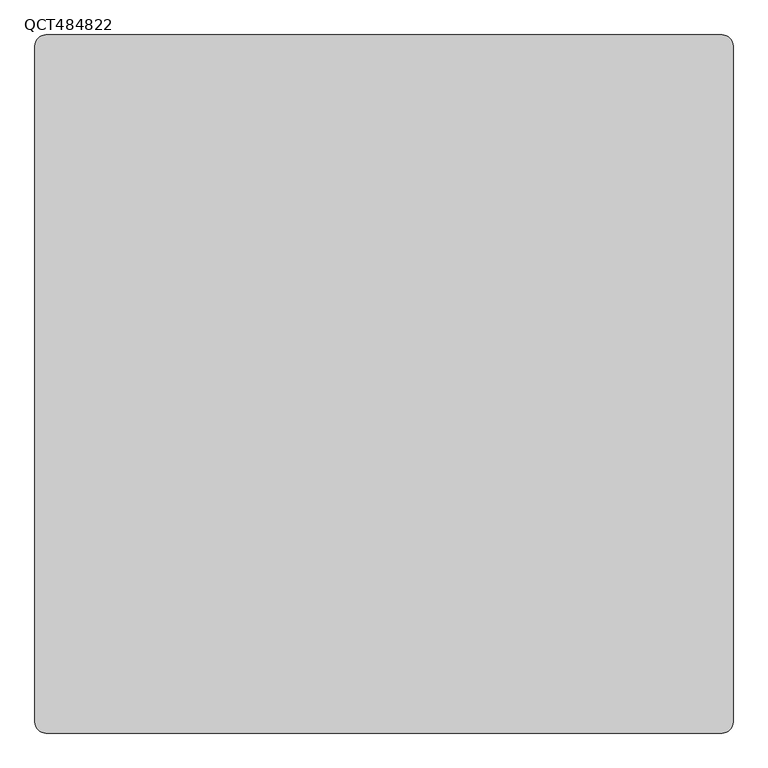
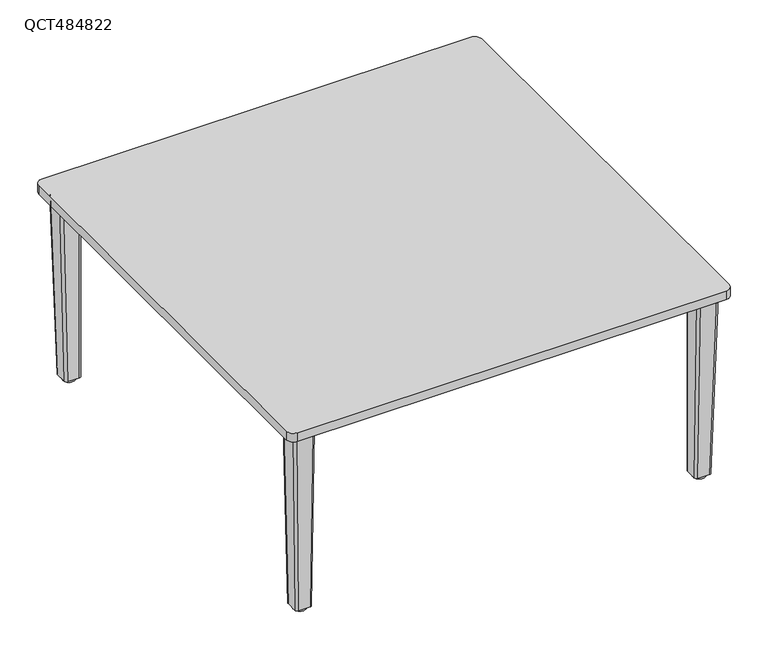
"""IFC4 building model written with IfcOpenShell, lengths in millimetres: furniture geometry, Leland-Quince-Table_Square : QCT484822."""

from ifc_helpers import new_model, si_unit, point, frame, frame_2d, origin, origin_with_axes, place, context, project, spatial, polyline, circle_curve, trimmed, segment, composite_curve, outline, extrude, source, transform, mapped, element, save
from ifc_brep_helpers import plane_surface, cylinder_surface, extruded_surface, advanced_brep


def qct484822_5f569f33(model_context):
    return source(origin(), model_context, "Body", "SolidModel", [
        advanced_brep(
        [(578.6299122, -527.8482078, 528.6487443), (534.1799122, -527.8482078, 528.6487443), (527.8299122, -534.1982078, 528.6487443), (527.8299122, -578.6482078, 528.6487443), (534.1799122, -584.9982078, 528.6487443), (578.6299122, -584.9982078, 528.6487443), (584.9799122, -578.6482078, 528.6487443), (584.9799122, -534.1982078, 528.6487443), (566.3392552, -527.8482078, 9.5377), (572.6892552, -534.1982078, 9.5377), (572.6892552, -566.3651364, 9.5377), (566.3392552, -572.7151364, 9.5377), (534.1799122, -572.7151364, 9.5377), (527.8299122, -566.3651364, 9.5377), (527.8299122, -534.1982078, 9.5377), (534.1799122, -527.8482078, 9.5377)],
        [
            (0, 1),
            (1, 2, circle_curve(frame((534.1799122, -534.1982078, 528.6487443), z_axis=(0.0, 0.0, 1.0), x_axis=(-1.0, 0.0, 0.0)), 6.35)),
            (2, 3),
            (3, 4, circle_curve(frame((534.1799122, -578.6482078, 528.6487443), z_axis=(0.0, 0.0, 1.0), x_axis=(-1.0, 0.0, 0.0)), 6.35)),
            (4, 5),
            (5, 6, circle_curve(frame((578.6299122, -578.6482078, 528.6487443), z_axis=(0.0, 0.0, 1.0), x_axis=(-1.0, 0.0, 0.0)), 6.35)),
            (6, 7),
            (7, 0, circle_curve(frame((578.6299122, -534.1982078, 528.6487443), z_axis=(0.0, 0.0, 1.0), x_axis=(-1.0, 0.0, 0.0)), 6.35)),
            (8, 9, circle_curve(frame((566.3392552, -534.1982078, 9.5377), z_axis=(0.0, 0.0, -1.0), x_axis=(-1.0, 0.0, 0.0)), 6.35)),
            (9, 10),
            (10, 11, circle_curve(frame((566.3392552, -566.3651364, 9.5377), z_axis=(0.0, 0.0, -1.0), x_axis=(-1.0, 0.0, 0.0)), 6.35)),
            (11, 12),
            (12, 13, circle_curve(frame((534.1799122, -566.3651364, 9.5377), z_axis=(0.0, 0.0, -1.0), x_axis=(-1.0, 0.0, 0.0)), 6.35)),
            (13, 14),
            (14, 15, circle_curve(frame((534.1799122, -534.1982078, 9.5377), z_axis=(0.0, 0.0, -1.0), x_axis=(-1.0, 0.0, 0.0)), 6.35)),
            (15, 8),
            (8, 0),
            (7, 9),
            (6, 10),
            (5, 11),
            (4, 12),
            (3, 13),
            (2, 14),
            (1, 15),
        ],
        [
            plane_surface(frame((556.4049122, -556.4232078, 528.6487443), z_axis=(0.0, 0.0, 1.0), x_axis=(1.0, 0.0, 0.0))),
            plane_surface(frame((550.2595837, -550.2816721, 9.5377), z_axis=(0.0, 0.0, -1.0), x_axis=(1.0, 0.0, 0.0))),
            extruded_surface(trimmed(circle_curve(frame((566.3392552, -534.1982078, 9.5377), z_axis=(0.0, 0.0, 1.0), x_axis=(-1.0, 0.0, 0.0)), 6.35), [point((572.6892552, -534.1982078, 9.5377))], [point((566.3392552, -527.8482078, 9.5377))], True, "CARTESIAN"), (12.29065700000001, 0.0, 519.1110443), 519.2565228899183),
            plane_surface(frame((572.6892552, -550.2816721, 9.5377), z_axis=(0.999719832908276, 0.0, -0.023669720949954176), x_axis=(0.0, 1.0, 0.0))),
            extruded_surface(trimmed(circle_curve(frame((566.3392552, -566.3651364, 9.5377), z_axis=(0.0, 0.0, 1.0), x_axis=(-1.0, 0.0, 0.0)), 6.35), [point((566.3392552, -572.7151364, 9.5377))], [point((572.6892552, -566.3651364, 9.5377))], True, "CARTESIAN"), (12.29065700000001, -12.28307140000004, 519.1110443), 519.4017812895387),
            plane_surface(frame((550.2595837, -572.7151364, 9.5377), z_axis=(0.0, -0.9997201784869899, -0.023655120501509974), x_axis=(1.0, 0.0, 0.0))),
            extruded_surface(trimmed(circle_curve(frame((534.1799122, -566.3651364, 9.5377), z_axis=(0.0, 0.0, 1.0), x_axis=(-1.0, 0.0, 0.0)), 6.35), [point((527.8299122, -566.3651364, 9.5377))], [point((534.1799122, -572.7151364, 9.5377))], True, "CARTESIAN"), (0.0, -12.28307140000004, 519.1110443), 519.2563433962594),
            plane_surface(frame((527.8299122, -550.2816721, 9.5377), z_axis=(-1.0, 0.0, 0.0), x_axis=(0.0, -1.0, 0.0))),
            cylinder_surface(frame((534.1799122, -534.1982078, 9.5377), z_axis=(0.0, 0.0, 1.0), x_axis=(-1.0, 0.0, 0.0)), 6.35),
            plane_surface(frame((550.2595837, -527.8482078, 9.5377), z_axis=(0.0, 1.0, 0.0), x_axis=(-1.0, 0.0, 0.0))),
        ],
        [
            (0, [[1, 2, 3, 4, 5, 6, 7, 8]]),
            (1, [[9, 10, 11, 12, 13, 14, 15, 16]]),
            (2, [[-9, 17, -8, 18]]),
            (3, [[-10, -18, -7, 19]]),
            (4, [[-11, -19, -6, 20]]),
            (5, [[-12, -20, -5, 21]]),
            (6, [[-13, -21, -4, 22]]),
            (7, [[-14, -22, -3, 23]]),
            (8, [[-15, -23, -2, 24]]),
            (9, [[-16, -24, -1, -17]]),
        ],
    ),
        advanced_brep(
        [(-578.6299122, -527.8482078, 528.6487443), (-584.9799122, -534.1982078, 528.6487443), (-584.9799122, -578.6482078, 528.6487443), (-578.6299122, -584.9982078, 528.6487443), (-534.1799122, -584.9982078, 528.6487443), (-527.8299122, -578.6482078, 528.6487443), (-527.8299122, -534.1982078, 528.6487443), (-534.1799122, -527.8482078, 528.6487443), (-566.3392552, -527.8482078, 9.5377), (-534.1799122, -527.8482078, 9.5377), (-527.8299122, -534.1982078, 9.5377), (-527.8299122, -566.3651364, 9.5377), (-534.1799122, -572.7151364, 9.5377), (-566.3392552, -572.7151364, 9.5377), (-572.6892552, -566.3651364, 9.5377), (-572.6892552, -534.1982078, 9.5377)],
        [
            (0, 1, circle_curve(frame((-578.6299122, -534.1982078, 528.6487443), z_axis=(0.0, 0.0, 1.0), x_axis=(1.0, 0.0, 0.0)), 6.35)),
            (1, 2),
            (2, 3, circle_curve(frame((-578.6299122, -578.6482078, 528.6487443), z_axis=(0.0, 0.0, 1.0), x_axis=(1.0, 0.0, 0.0)), 6.35)),
            (3, 4),
            (4, 5, circle_curve(frame((-534.1799122, -578.6482078, 528.6487443), z_axis=(0.0, 0.0, 1.0), x_axis=(1.0, 0.0, 0.0)), 6.35)),
            (5, 6),
            (6, 7, circle_curve(frame((-534.1799122, -534.1982078, 528.6487443), z_axis=(0.0, 0.0, 1.0), x_axis=(0.0, 1.0, 0.0)), 6.35)),
            (7, 0),
            (8, 9),
            (9, 10, circle_curve(frame((-534.1799122, -534.1982078, 9.5377), z_axis=(0.0, 0.0, -1.0), x_axis=(0.0, 1.0, 0.0)), 6.35)),
            (10, 11),
            (11, 12, circle_curve(frame((-534.1799122, -566.3651364, 9.5377), z_axis=(0.0, 0.0, -1.0), x_axis=(1.0, 0.0, 0.0)), 6.35)),
            (12, 13),
            (13, 14, circle_curve(frame((-566.3392552, -566.3651364, 9.5377), z_axis=(0.0, 0.0, -1.0), x_axis=(1.0, 0.0, 0.0)), 6.35)),
            (14, 15),
            (15, 8, circle_curve(frame((-566.3392552, -534.1982078, 9.5377), z_axis=(0.0, 0.0, -1.0), x_axis=(1.0, 0.0, 0.0)), 6.35)),
            (15, 1),
            (0, 8),
            (14, 2),
            (13, 3),
            (12, 4),
            (11, 5),
            (10, 6),
            (9, 7),
        ],
        [
            plane_surface(frame((-556.4049122, -556.4232078, 528.6487443), z_axis=(0.0, 0.0, 1.0), x_axis=(1.0, 0.0, 0.0))),
            plane_surface(frame((-550.2595837, -550.2816721, 9.5377), z_axis=(0.0, 0.0, -1.0), x_axis=(1.0, 0.0, 0.0))),
            extruded_surface(trimmed(circle_curve(frame((-566.3392552, -534.1982078, 9.5377), z_axis=(0.0, 0.0, 1.0), x_axis=(1.0, 0.0, 0.0)), 6.35), [point((-566.3392552, -527.8482078, 9.5377))], [point((-572.6892552, -534.1982078, 9.5377))], True, "CARTESIAN"), (-12.29065700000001, 0.0, 519.1110443), 519.2565228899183),
            plane_surface(frame((-572.6892552, -550.2816721, 9.5377), z_axis=(-0.999719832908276, 0.0, -0.023669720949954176), x_axis=(0.0, -1.0, 0.0))),
            extruded_surface(trimmed(circle_curve(frame((-566.3392552, -566.3651364, 9.5377), z_axis=(0.0, 0.0, 1.0), x_axis=(1.0, 0.0, 0.0)), 6.35), [point((-572.6892552, -566.3651364, 9.5377))], [point((-566.3392552, -572.7151364, 9.5377))], True, "CARTESIAN"), (-12.29065700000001, -12.28307140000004, 519.1110443), 519.4017812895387),
            plane_surface(frame((-550.2595837, -572.7151364, 9.5377), z_axis=(0.0, -0.9997201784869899, -0.023655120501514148), x_axis=(1.0, 0.0, 0.0))),
            extruded_surface(trimmed(circle_curve(frame((-534.1799122, -566.3651364, 9.5377), z_axis=(0.0, 0.0, 1.0), x_axis=(1.0, 0.0, 0.0)), 6.35), [point((-534.1799122, -572.7151364, 9.5377))], [point((-527.8299122, -566.3651364, 9.5377))], True, "CARTESIAN"), (0.0, -12.28307140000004, 519.1110443), 519.2563433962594),
            plane_surface(frame((-527.8299122, -550.2816721, 9.5377), z_axis=(1.0, 0.0, 0.0), x_axis=(0.0, 1.0, 0.0))),
            cylinder_surface(frame((-534.1799122, -534.1982078, 9.5377), z_axis=(0.0, 0.0, 1.0), x_axis=(0.0, 1.0, 0.0)), 6.35),
            plane_surface(frame((-550.2595837, -527.8482078, 9.5377), z_axis=(0.0, 1.0, 0.0), x_axis=(-1.0, 0.0, 0.0))),
        ],
        [
            (0, [[1, 2, 3, 4, 5, 6, 7, 8]]),
            (1, [[9, 10, 11, 12, 13, 14, 15, 16]]),
            (2, [[-16, 17, -1, 18]]),
            (3, [[-15, 19, -2, -17]]),
            (4, [[-14, 20, -3, -19]]),
            (5, [[-13, 21, -4, -20]]),
            (6, [[-12, 22, -5, -21]]),
            (7, [[-11, 23, -6, -22]]),
            (8, [[-10, 24, -7, -23]]),
            (9, [[-9, -18, -8, -24]]),
        ],
    ),
        advanced_brep(
        [(578.6299122, 527.8482078, 528.6487443), (584.9799122, 534.1982078, 528.6487443), (584.9799122, 578.6482078, 528.6487443), (578.6299122, 584.9982078, 528.6487443), (534.1799122, 584.9982078, 528.6487443), (527.8299122, 578.6482078, 528.6487443), (527.8299122, 534.1982078, 528.6487443), (534.1799122, 527.8482078, 528.6487443), (566.3392552, 527.8482078, 9.5377), (534.1799122, 527.8482078, 9.5377), (527.8299122, 534.1982078, 9.5377), (527.8299122, 566.3651364, 9.5377), (534.1799122, 572.7151364, 9.5377), (566.3392552, 572.7151364, 9.5377), (572.6892552, 566.3651364, 9.5377), (572.6892552, 534.1982078, 9.5377)],
        [
            (0, 1, circle_curve(frame((578.6299122, 534.1982078, 528.6487443), z_axis=(0.0, 0.0, 1.0), x_axis=(-1.0, 0.0, 0.0)), 6.35)),
            (1, 2),
            (2, 3, circle_curve(frame((578.6299122, 578.6482078, 528.6487443), z_axis=(0.0, 0.0, 1.0), x_axis=(-1.0, 0.0, 0.0)), 6.35)),
            (3, 4),
            (4, 5, circle_curve(frame((534.1799122, 578.6482078, 528.6487443), z_axis=(0.0, 0.0, 1.0), x_axis=(-1.0, 0.0, 0.0)), 6.35)),
            (5, 6),
            (6, 7, circle_curve(frame((534.1799122, 534.1982078, 528.6487443), z_axis=(0.0, 0.0, 1.0), x_axis=(0.0, -1.0, 0.0)), 6.35)),
            (7, 0),
            (8, 9),
            (9, 10, circle_curve(frame((534.1799122, 534.1982078, 9.5377), z_axis=(0.0, 0.0, -1.0), x_axis=(0.0, -1.0, 0.0)), 6.35)),
            (10, 11),
            (11, 12, circle_curve(frame((534.1799122, 566.3651364, 9.5377), z_axis=(0.0, 0.0, -1.0), x_axis=(-1.0, 0.0, 0.0)), 6.35)),
            (12, 13),
            (13, 14, circle_curve(frame((566.3392552, 566.3651364, 9.5377), z_axis=(0.0, 0.0, -1.0), x_axis=(-1.0, 0.0, 0.0)), 6.35)),
            (14, 15),
            (15, 8, circle_curve(frame((566.3392552, 534.1982078, 9.5377), z_axis=(0.0, 0.0, -1.0), x_axis=(-1.0, 0.0, 0.0)), 6.35)),
            (15, 1),
            (0, 8),
            (14, 2),
            (13, 3),
            (12, 4),
            (11, 5),
            (10, 6),
            (9, 7),
        ],
        [
            plane_surface(frame((556.4049122, 556.4232078, 528.6487443), z_axis=(0.0, 0.0, 1.0), x_axis=(-1.0, 0.0, 0.0))),
            plane_surface(frame((550.2595837, 550.2816721, 9.5377), z_axis=(0.0, 0.0, -1.0), x_axis=(-1.0, 0.0, 0.0))),
            extruded_surface(trimmed(circle_curve(frame((566.3392552, 534.1982078, 9.5377), z_axis=(0.0, 0.0, 1.0), x_axis=(-1.0, 0.0, 0.0)), 6.35), [point((566.3392552, 527.8482078, 9.5377))], [point((572.6892552, 534.1982078, 9.5377))], True, "CARTESIAN"), (12.29065700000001, 0.0, 519.1110443), 519.2565228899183),
            plane_surface(frame((572.6892552, 550.2816721, 9.5377), z_axis=(0.999719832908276, 0.0, -0.023669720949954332), x_axis=(0.0, 1.0, 0.0))),
            extruded_surface(trimmed(circle_curve(frame((566.3392552, 566.3651364, 9.5377), z_axis=(0.0, 0.0, 1.0), x_axis=(-1.0, 0.0, 0.0)), 6.35), [point((572.6892552, 566.3651364, 9.5377))], [point((566.3392552, 572.7151364, 9.5377))], True, "CARTESIAN"), (12.29065700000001, 12.28307140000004, 519.1110443), 519.4017812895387),
            plane_surface(frame((550.2595837, 572.7151364, 9.5377), z_axis=(0.0, 0.9997201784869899, -0.023655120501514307), x_axis=(-1.0, 0.0, 0.0))),
            extruded_surface(trimmed(circle_curve(frame((534.1799122, 566.3651364, 9.5377), z_axis=(0.0, 0.0, 1.0), x_axis=(-1.0, 0.0, 0.0)), 6.35), [point((534.1799122, 572.7151364, 9.5377))], [point((527.8299122, 566.3651364, 9.5377))], True, "CARTESIAN"), (0.0, 12.28307140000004, 519.1110443), 519.2563433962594),
            plane_surface(frame((527.8299122, 550.2816721, 9.5377), z_axis=(-1.0, 0.0, 0.0), x_axis=(0.0, -1.0, 0.0))),
            cylinder_surface(frame((534.1799122, 534.1982078, 9.5377), z_axis=(0.0, 0.0, 1.0), x_axis=(0.0, -1.0, 0.0)), 6.35),
            plane_surface(frame((550.2595837, 527.8482078, 9.5377), z_axis=(0.0, -1.0, 0.0), x_axis=(1.0, 0.0, 0.0))),
        ],
        [
            (0, [[1, 2, 3, 4, 5, 6, 7, 8]]),
            (1, [[9, 10, 11, 12, 13, 14, 15, 16]]),
            (2, [[-16, 17, -1, 18]]),
            (3, [[-15, 19, -2, -17]]),
            (4, [[-14, 20, -3, -19]]),
            (5, [[-13, 21, -4, -20]]),
            (6, [[-12, 22, -5, -21]]),
            (7, [[-11, 23, -6, -22]]),
            (8, [[-10, 24, -7, -23]]),
            (9, [[-9, -18, -8, -24]]),
        ],
    ),
        extrude(outline(composite_curve([segment(trimmed(circle_curve(frame_2d((-550.2595837, 550.2816721)), 16.66875), [point((-566.9283337, 550.2816721))], [point((-533.5908337, 550.2816721))], False, "CARTESIAN"), True, "CONTINUOUS"), segment(trimmed(circle_curve(frame_2d((-550.2595837, 550.2816721)), 16.66875), [point((-533.5908337, 550.2816721))], [point((-566.9283337, 550.2816721))], False, "CARTESIAN"), True, "CONTINUOUS")], self_intersect=False)), origin_with_axes(), (0.0, 0.0, 1.0), 9.5377),
        extrude(outline(composite_curve([segment(trimmed(circle_curve(frame_2d((550.2595837, 550.2816721)), 16.66875), [point((533.5908337, 550.2816721))], [point((566.9283337, 550.2816721))], False, "CARTESIAN"), True, "CONTINUOUS"), segment(trimmed(circle_curve(frame_2d((550.2595837, 550.2816721)), 16.66875), [point((566.9283337, 550.2816721))], [point((533.5908337, 550.2816721))], False, "CARTESIAN"), True, "CONTINUOUS")], self_intersect=False)), origin_with_axes(), (0.0, 0.0, 1.0), 9.5377),
        extrude(outline(composite_curve([segment(trimmed(circle_curve(frame_2d((-550.2595837, -550.2816721)), 16.66875), [point((-566.9283337, -550.2816721))], [point((-533.5908337, -550.2816721))], False, "CARTESIAN"), True, "CONTINUOUS"), segment(trimmed(circle_curve(frame_2d((-550.2595837, -550.2816721)), 16.66875), [point((-533.5908337, -550.2816721))], [point((-566.9283337, -550.2816721))], False, "CARTESIAN"), True, "CONTINUOUS")], self_intersect=False)), origin_with_axes(), (0.0, 0.0, 1.0), 9.5377),
        extrude(outline(composite_curve([segment(trimmed(circle_curve(frame_2d((550.2595837, -550.2816721)), 16.66875), [point((533.5908337, -550.2816721))], [point((566.9283337, -550.2816721))], False, "CARTESIAN"), True, "CONTINUOUS"), segment(trimmed(circle_curve(frame_2d((550.2595837, -550.2816721)), 16.66875), [point((566.9283337, -550.2816721))], [point((533.5908337, -550.2816721))], False, "CARTESIAN"), True, "CONTINUOUS")], self_intersect=False)), origin_with_axes(), (0.0, 0.0, 1.0), 9.5377),
        extrude(outline(polyline([(-480.21875, 581.81875), (-480.21875, 480.21875), (-581.81875, 480.21875), (-581.81875, 581.81875), (-480.21875, 581.81875)])), frame((0.0, 0.0, 528.6487443), z_axis=(0.0, 0.0, 1.0), x_axis=(1.0, 0.0, 0.0)), (0.0, 0.0, 1.0), 4.7625),
        extrude(outline(polyline([(480.21875, 581.81875), (581.81875, 581.81875), (581.81875, 480.21875), (480.21875, 480.21875), (480.21875, 581.81875)])), frame((0.0, 0.0, 528.6487443), z_axis=(0.0, 0.0, 1.0), x_axis=(1.0, 0.0, 0.0)), (0.0, 0.0, 1.0), 4.7625),
        extrude(outline(polyline([(-480.21875, -581.81875), (-581.81875, -581.81875), (-581.81875, -480.21875), (-480.21875, -480.21875), (-480.21875, -581.81875)])), frame((0.0, 0.0, 528.6487443), z_axis=(0.0, 0.0, 1.0), x_axis=(1.0, 0.0, 0.0)), (0.0, 0.0, 1.0), 4.7625),
        extrude(outline(polyline([(480.21875, -581.81875), (480.21875, -480.21875), (581.81875, -480.21875), (581.81875, -581.81875), (480.21875, -581.81875)])), frame((0.0, 0.0, 528.6487443), z_axis=(0.0, 0.0, 1.0), x_axis=(1.0, 0.0, 0.0)), (0.0, 0.0, 1.0), 4.7625),
        advanced_brep(
        [(-578.6299122, 527.8482078, 528.6487443), (-534.1799122, 527.8482078, 528.6487443), (-527.8299122, 534.1982078, 528.6487443), (-527.8299122, 578.6482078, 528.6487443), (-534.1799122, 584.9982078, 528.6487443), (-578.6299122, 584.9982078, 528.6487443), (-584.9799122, 578.6482078, 528.6487443), (-584.9799122, 534.1982078, 528.6487443), (-566.3392552, 527.8482078, 9.5377), (-572.6892552, 534.1982078, 9.5377), (-572.6892552, 566.3651364, 9.5377), (-566.3392552, 572.7151364, 9.5377), (-534.1799122, 572.7151364, 9.5377), (-527.8299122, 566.3651364, 9.5377), (-527.8299122, 534.1982078, 9.5377), (-534.1799122, 527.8482078, 9.5377)],
        [
            (0, 1),
            (1, 2, circle_curve(frame((-534.1799122, 534.1982078, 528.6487443), z_axis=(0.0, 0.0, 1.0), x_axis=(1.0, 0.0, 0.0)), 6.35)),
            (2, 3),
            (3, 4, circle_curve(frame((-534.1799122, 578.6482078, 528.6487443), z_axis=(0.0, 0.0, 1.0), x_axis=(1.0, 0.0, 0.0)), 6.35)),
            (4, 5),
            (5, 6, circle_curve(frame((-578.6299122, 578.6482078, 528.6487443), z_axis=(0.0, 0.0, 1.0), x_axis=(1.0, 0.0, 0.0)), 6.35)),
            (6, 7),
            (7, 0, circle_curve(frame((-578.6299122, 534.1982078, 528.6487443), z_axis=(0.0, 0.0, 1.0), x_axis=(1.0, 0.0, 0.0)), 6.35)),
            (8, 9, circle_curve(frame((-566.3392552, 534.1982078, 9.5377), z_axis=(0.0, 0.0, -1.0), x_axis=(1.0, 0.0, 0.0)), 6.35)),
            (9, 10),
            (10, 11, circle_curve(frame((-566.3392552, 566.3651364, 9.5377), z_axis=(0.0, 0.0, -1.0), x_axis=(1.0, 0.0, 0.0)), 6.35)),
            (11, 12),
            (12, 13, circle_curve(frame((-534.1799122, 566.3651364, 9.5377), z_axis=(0.0, 0.0, -1.0), x_axis=(1.0, 0.0, 0.0)), 6.35)),
            (13, 14),
            (14, 15, circle_curve(frame((-534.1799122, 534.1982078, 9.5377), z_axis=(0.0, 0.0, -1.0), x_axis=(1.0, 0.0, 0.0)), 6.35)),
            (15, 8),
            (8, 0),
            (7, 9),
            (6, 10),
            (5, 11),
            (4, 12),
            (3, 13),
            (2, 14),
            (1, 15),
        ],
        [
            plane_surface(frame((-556.4049122, 556.4232078, 528.6487443), z_axis=(0.0, 0.0, 1.0), x_axis=(-1.0, 0.0, 0.0))),
            plane_surface(frame((-550.2595837, 550.2816721, 9.5377), z_axis=(0.0, 0.0, -1.0), x_axis=(-1.0, 0.0, 0.0))),
            extruded_surface(trimmed(circle_curve(frame((-566.3392552, 534.1982078, 9.5377), z_axis=(0.0, 0.0, 1.0), x_axis=(1.0, 0.0, 0.0)), 6.35), [point((-572.6892552, 534.1982078, 9.5377))], [point((-566.3392552, 527.8482078, 9.5377))], True, "CARTESIAN"), (-12.29065700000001, 0.0, 519.1110443), 519.2565228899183),
            plane_surface(frame((-572.6892552, 550.2816721, 9.5377), z_axis=(-0.999719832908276, 0.0, -0.023669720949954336), x_axis=(0.0, -1.0, 0.0))),
            extruded_surface(trimmed(circle_curve(frame((-566.3392552, 566.3651364, 9.5377), z_axis=(0.0, 0.0, 1.0), x_axis=(1.0, 0.0, 0.0)), 6.35), [point((-566.3392552, 572.7151364, 9.5377))], [point((-572.6892552, 566.3651364, 9.5377))], True, "CARTESIAN"), (-12.29065700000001, 12.28307140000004, 519.1110443), 519.4017812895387),
            plane_surface(frame((-550.2595837, 572.7151364, 9.5377), z_axis=(0.0, 0.9997201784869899, -0.023655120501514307), x_axis=(-1.0, 0.0, 0.0))),
            extruded_surface(trimmed(circle_curve(frame((-534.1799122, 566.3651364, 9.5377), z_axis=(0.0, 0.0, 1.0), x_axis=(1.0, 0.0, 0.0)), 6.35), [point((-527.8299122, 566.3651364, 9.5377))], [point((-534.1799122, 572.7151364, 9.5377))], True, "CARTESIAN"), (0.0, 12.28307140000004, 519.1110443), 519.2563433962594),
            plane_surface(frame((-527.8299122, 550.2816721, 9.5377), z_axis=(1.0, 0.0, 0.0), x_axis=(0.0, 1.0, 0.0))),
            cylinder_surface(frame((-534.1799122, 534.1982078, 9.5377), z_axis=(0.0, 0.0, 1.0), x_axis=(1.0, 0.0, 0.0)), 6.35),
            plane_surface(frame((-550.2595837, 527.8482078, 9.5377), z_axis=(0.0, -1.0, 0.0), x_axis=(1.0, 0.0, 0.0))),
        ],
        [
            (0, [[1, 2, 3, 4, 5, 6, 7, 8]]),
            (1, [[9, 10, 11, 12, 13, 14, 15, 16]]),
            (2, [[-9, 17, -8, 18]]),
            (3, [[-10, -18, -7, 19]]),
            (4, [[-11, -19, -6, 20]]),
            (5, [[-12, -20, -5, 21]]),
            (6, [[-13, -21, -4, 22]]),
            (7, [[-14, -22, -3, 23]]),
            (8, [[-15, -23, -2, 24]]),
            (9, [[-16, -24, -1, -17]]),
        ],
    ),
        extrude(outline(composite_curve([segment(trimmed(circle_curve(frame_2d((590.55, 590.55)), 19.05), [point((590.55, 609.6))], [point((609.6, 590.55))], False, "CARTESIAN"), True, "CONTINUOUS"), segment(polyline([(609.6, 590.55), (609.6, -590.55)]), True, "CONTINUOUS"), segment(trimmed(circle_curve(frame_2d((590.55, -590.55)), 19.05), [point((609.6, -590.55))], [point((590.55, -609.6))], False, "CARTESIAN"), True, "CONTINUOUS"), segment(polyline([(590.55, -609.6), (-590.55, -609.6)]), True, "CONTINUOUS"), segment(trimmed(circle_curve(frame_2d((-590.55, -590.55)), 19.05), [point((-590.55, -609.6))], [point((-609.6, -590.55))], False, "CARTESIAN"), True, "CONTINUOUS"), segment(polyline([(-609.6, -590.55), (-609.6, 590.55)]), True, "CONTINUOUS"), segment(trimmed(circle_curve(frame_2d((-590.55, 590.55)), 19.05), [point((-609.6, 590.55))], [point((-590.55, 609.6))], False, "CARTESIAN"), True, "CONTINUOUS"), segment(polyline([(-590.55, 609.6), (590.55, 609.6)]), True, "CONTINUOUS")], self_intersect=False)), frame((0.0, 0.0, 533.4112443), z_axis=(0.0, 0.0, 1.0), x_axis=(1.0, 0.0, 0.0)), (0.0, 0.0, 1.0), 25.3887557),
    ])


if __name__ == "__main__":
    model = new_model("IFC4")
    model_context = context("Model", 3, world=origin())
    ifc_project = project(units=[si_unit("LENGTHUNIT", "METRE", prefix="MILLI")], contexts=[model_context])
    site = spatial("IfcSite", under=ifc_project)
    building = spatial("IfcBuilding", under=site)
    placement = place(None, origin())
    qct484822_shape = qct484822_5f569f33(model_context)
    element("IfcFurniture", 1, ObjectType="Leland-Quince-Table_Square : QCT484822", at=placement, inside=building, context=model_context, shape_type="MappedRepresentation", body=[
        mapped(qct484822_shape, transform((0.0, 0.0, 0.0), x_axis=(1.0, 0.0, 0.0), y_axis=(0.0, 1.0, 0.0), z_axis=(0.0, 0.0, 1.0))),
    ])
    save(model, "model.ifc")
